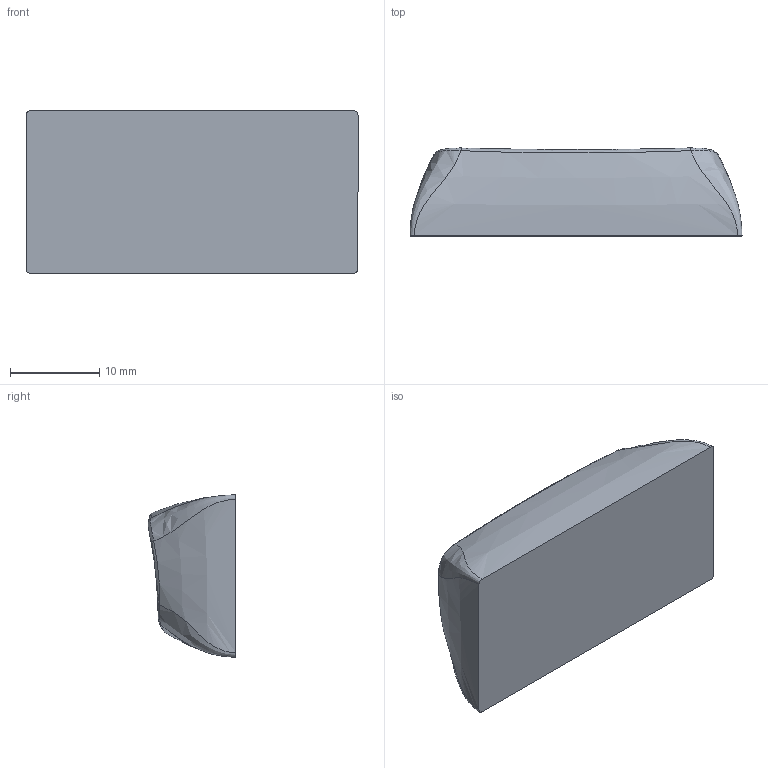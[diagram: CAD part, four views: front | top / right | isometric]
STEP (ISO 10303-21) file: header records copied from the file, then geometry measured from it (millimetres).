
FILE_DESCRIPTION (( 'STEP AP203' ), '1' );
FILE_NAME ('R1_2U_base_v3.2_GMK.STEP', '2023-03-07T08:51:38', ( '' ), ( '' ), 'SwSTEP 2.0', 'SolidWorks 2022', '' );
FILE_SCHEMA (( 'CONFIG_CONTROL_DESIGN' ));
Length unit declared in the file: millimetre
Products named in the file (1): R1_2U_base_v3.2_GMK
Bounding box: 37.25 x 9.87 x 18.2 mm (x, y, z)
Volume: 5085 mm3; surface area: 2038.2 mm2
Topology: 1 solids, 1 shells, 18 faces, 40 edges, 24 vertices
Faces by surface type: bspline 17, plane 1
Entity records: 2622 total; most frequent: CARTESIAN_POINT 2294, ORIENTED_EDGE 80, EDGE_CURVE 40, B_SPLINE_CURVE_WITH_KNOTS 33, VERTEX_POINT 24, FACE_OUTER_BOUND 18, ADVANCED_FACE 18, EDGE_LOOP 18
